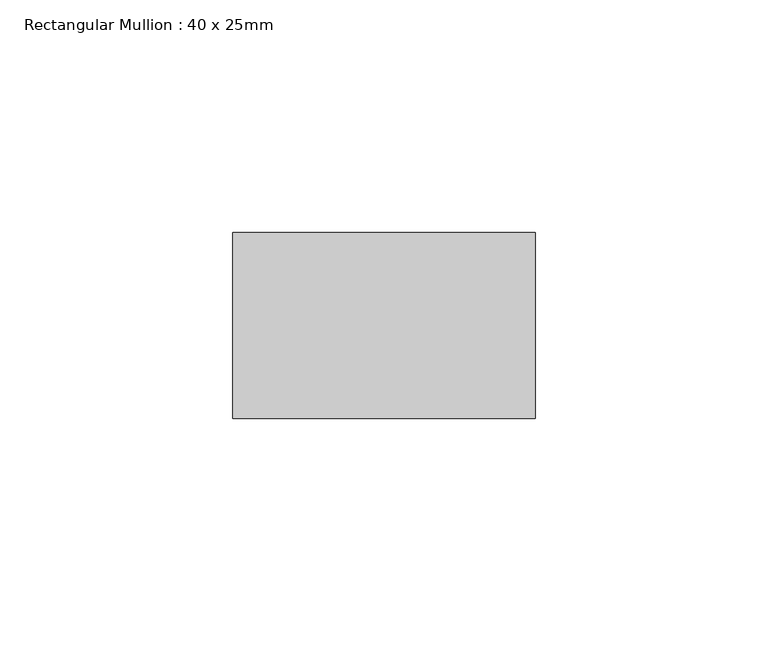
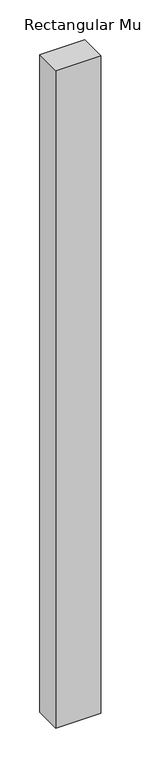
"""IFC4 building model written with IfcOpenShell, lengths in millimetres: member geometry, Rectangular Mullion : 40 x 25mm."""

from ifc_helpers import new_model, si_unit, frame, origin, place, context, project, spatial, polyline, outline, extrude, source, transform, mapped, element, save


def rectangular_mullion_40_x_25mm_88c47640(model_context):
    return source(origin(), model_context, "Body", "SweptSolid", [
        extrude(outline(polyline([(0.0, -20.0), (0.0, -60.0), (-65.0, -60.0), (-65.0, -20.0), (0.0, -20.0)])), frame((0.0, 0.0, -1007.0863148), z_axis=(0.0, 0.0, 1.0), x_axis=(1.0, 0.0, 0.0)), (0.0, 0.0, 1.0), 1007.0863148),
    ])


if __name__ == "__main__":
    model = new_model("IFC4")
    model_context = context("Model", 3, world=origin())
    ifc_project = project(units=[si_unit("LENGTHUNIT", "METRE", prefix="MILLI")], contexts=[model_context])
    site = spatial("IfcSite", under=ifc_project)
    building = spatial("IfcBuilding", under=site)
    placement = place(None, origin())
    rectangular_mullion_40_x_25mm_shape = rectangular_mullion_40_x_25mm_88c47640(model_context)
    element("IfcMember", 1, ObjectType="Rectangular Mullion : 40 x 25mm", at=placement, inside=building, context=model_context, shape_type="MappedRepresentation", body=[
        mapped(rectangular_mullion_40_x_25mm_shape, transform((0.0, 0.0, 0.0), x_axis=(1.0, 0.0, 0.0), y_axis=(0.0, 1.0, 0.0), z_axis=(0.0, 0.0, 1.0))),
    ])
    save(model, "model.ifc")
